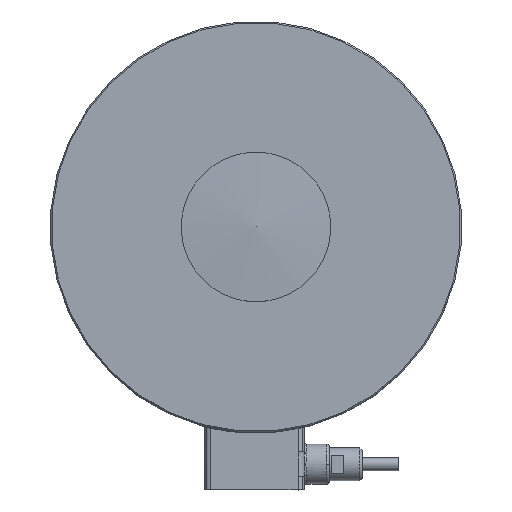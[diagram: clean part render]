
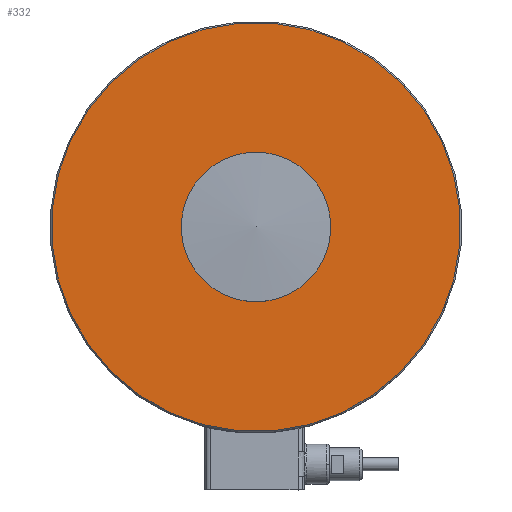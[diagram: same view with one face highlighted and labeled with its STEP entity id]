
A CAD part, top view. The second image highlights one B-rep face of the part: STEP entity #332.
In plain terms, the highlighted planar face has unit normal (0, 0, 1).
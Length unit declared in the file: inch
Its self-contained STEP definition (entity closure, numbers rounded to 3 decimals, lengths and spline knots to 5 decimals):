
#16 = PLANE ( 'NONE',  #514 ) ;
#90 = DIRECTION ( 'NONE',  ( -0.707, 0.707, 0. ) ) ;
#281 = ORIENTED_EDGE ( 'NONE', *, *, #2313, .T. ) ;
#297 = FACE_BOUND ( 'NONE', #1752, .T. ) ;
#332 = ADVANCED_FACE ( 'NONE', ( #297, #702 ), #16, .T. ) ;
#433 = EDGE_CURVE ( 'NONE', #985, #584, #2657, .T. ) ;
#514 = AXIS2_PLACEMENT_3D ( 'NONE', #2113, #2608, #2144 ) ;
#584 = VERTEX_POINT ( 'NONE', #2403 ) ;
#619 = ORIENTED_EDGE ( 'NONE', *, *, #952, .F. ) ;
#641 = CARTESIAN_POINT ( 'NONE',  ( 0., 0., 2.3622 ) ) ;
#665 = CIRCLE ( 'NONE', #2179, 3.22835 ) ;
#669 = CIRCLE ( 'NONE', #2378, 1.10236 ) ;
#678 = EDGE_CURVE ( 'NONE', #2675, #2842, #665, .T. ) ;
#702 = FACE_OUTER_BOUND ( 'NONE', #2009, .T. ) ;
#775 = DIRECTION ( 'NONE',  ( -0.707, 0.707, 0. ) ) ;
#863 = CARTESIAN_POINT ( 'NONE',  ( 2.28277, -2.2828, 2.3622 ) ) ;
#928 = DIRECTION ( 'NONE',  ( 0., 0., 1. ) ) ;
#952 = EDGE_CURVE ( 'NONE', #584, #985, #669, .T. ) ;
#985 = VERTEX_POINT ( 'NONE', #1351 ) ;
#1031 = CARTESIAN_POINT ( 'NONE',  ( 0., 0., 2.3622 ) ) ;
#1277 = ORIENTED_EDGE ( 'NONE', *, *, #433, .F. ) ;
#1320 = DIRECTION ( 'NONE',  ( 0., 0., 1. ) ) ;
#1351 = CARTESIAN_POINT ( 'NONE',  ( -0.77949, -0.77948, 2.3622 ) ) ;
#1356 = AXIS2_PLACEMENT_3D ( 'NONE', #1031, #1320, #90 ) ;
#1563 = ORIENTED_EDGE ( 'NONE', *, *, #678, .T. ) ;
#1569 = DIRECTION ( 'NONE',  ( -0.707, 0.707, 0. ) ) ;
#1654 = CARTESIAN_POINT ( 'NONE',  ( -2.28277, 2.2828, 2.3622 ) ) ;
#1714 = DIRECTION ( 'NONE',  ( 0., 0., 1. ) ) ;
#1752 = EDGE_LOOP ( 'NONE', ( #1277, #619 ) ) ;
#2009 = EDGE_LOOP ( 'NONE', ( #1563, #281 ) ) ;
#2113 = CARTESIAN_POINT ( 'NONE',  ( -1.53113, 1.53115, 2.3622 ) ) ;
#2144 = DIRECTION ( 'NONE',  ( 0.543, 0.84, 0. ) ) ;
#2179 = AXIS2_PLACEMENT_3D ( 'NONE', #2843, #1714, #775 ) ;
#2313 = EDGE_CURVE ( 'NONE', #2842, #2675, #2762, .T. ) ;
#2378 = AXIS2_PLACEMENT_3D ( 'NONE', #641, #928, #1569 ) ;
#2403 = CARTESIAN_POINT ( 'NONE',  ( 0.77949, 0.77948, 2.3622 ) ) ;
#2499 = CARTESIAN_POINT ( 'NONE',  ( 0., 0., 2.3622 ) ) ;
#2515 = DIRECTION ( 'NONE',  ( 0., 0., 1. ) ) ;
#2608 = DIRECTION ( 'NONE',  ( 0., 0., 1. ) ) ;
#2618 = AXIS2_PLACEMENT_3D ( 'NONE', #2499, #2515, #2735 ) ;
#2657 = CIRCLE ( 'NONE', #1356, 1.10236 ) ;
#2675 = VERTEX_POINT ( 'NONE', #863 ) ;
#2735 = DIRECTION ( 'NONE',  ( -0.707, 0.707, 0. ) ) ;
#2762 = CIRCLE ( 'NONE', #2618, 3.22835 ) ;
#2842 = VERTEX_POINT ( 'NONE', #1654 ) ;
#2843 = CARTESIAN_POINT ( 'NONE',  ( 0., 0., 2.3622 ) ) ;
